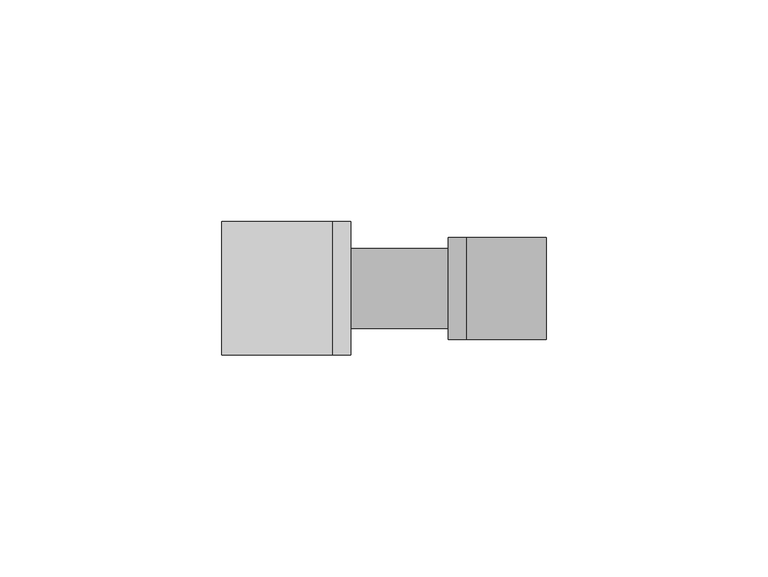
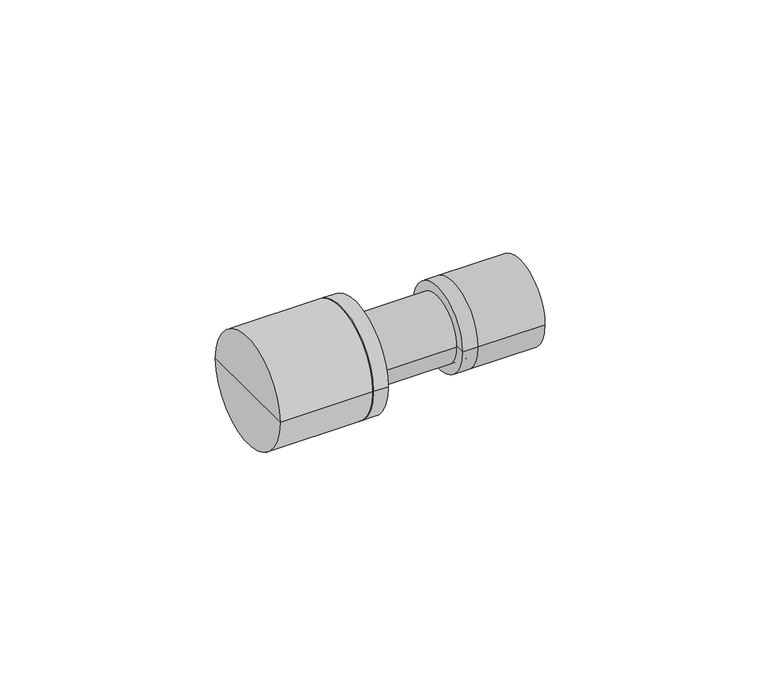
"""IFC4 building model written with IfcOpenShell, lengths in millimetres: pipe fitting geometry, KAN-therm Push łącznik PPSU : KAN-therm Push łącznik PPSU."""

from ifc_helpers import new_model, si_unit, frame, origin, place, context, project, spatial, circle_curve, source, transform, mapped, element, save
from ifc_brep_helpers import plane_surface, cylinder_surface, advanced_brep


def pipe_fitting_8ca0cf12(model_context):
    return source(origin(), model_context, "Body", "AdvancedBrep", [
        advanced_brep(
        [(-15.0, -15.0, 0.0), (-15.0, 0.0, 0.0), (-15.0, 15.0, 0.0), (-11.0, -15.0, 0.0), (-11.0, 15.0, 0.0), (-11.0, 0.0, 0.0)],
        [
            (0, 1),
            (1, 2),
            (2, 0, circle_curve(frame((-15.0, 0.0, 0.0), z_axis=(-1.0, 0.0, 0.0), x_axis=(0.0, 1.0, 0.0)), 15.0)),
            (0, 2, circle_curve(frame((-15.0, 0.0, 0.0), z_axis=(-1.0, 0.0, 0.0), x_axis=(0.0, 1.0, 0.0)), 15.0)),
            (3, 0),
            (2, 4),
            (4, 3, circle_curve(frame((-11.0, 0.0, 0.0), z_axis=(-1.0, 0.0, 0.0), x_axis=(0.0, 1.0, 0.0)), 15.0)),
            (3, 4, circle_curve(frame((-11.0, 0.0, 0.0), z_axis=(-1.0, 0.0, 0.0), x_axis=(0.0, 1.0, 0.0)), 15.0)),
            (5, 3),
            (4, 5),
        ],
        [
            plane_surface(frame((-15.0, 0.0, 0.0), z_axis=(-1.0, 0.0, 0.0), x_axis=(0.0, 1.0, 0.0))),
            cylinder_surface(frame((-2017.0, 0.0, 0.0), z_axis=(1.0, 0.0, 0.0), x_axis=(0.0, 1.0, 0.0)), 15.0),
            plane_surface(frame((-11.0, 0.0, 0.0), z_axis=(1.0, 0.0, 0.0), x_axis=(0.0, 1.0, 0.0))),
        ],
        [
            (0, [[1, 2, 3]]),
            (0, [[-2, -1, 4]]),
            (1, [[5, -3, 6, 7]]),
            (1, [[-6, -4, -5, 8]]),
            (2, [[9, -7, 10]]),
            (2, [[-10, -8, -9]]),
        ],
    ),
        advanced_brep(
        [(-40.0, -15.0, 0.0), (-40.0, 0.0, 0.0), (-40.0, 15.0, 0.0), (-15.0, -15.0, 0.0), (-15.0, 15.0, 0.0), (-15.0, 0.0, 0.0)],
        [
            (0, 1),
            (1, 2),
            (2, 0, circle_curve(frame((-40.0, 0.0, 0.0), z_axis=(-1.0, 0.0, 0.0), x_axis=(0.0, 1.0, 0.0)), 15.0)),
            (0, 2, circle_curve(frame((-40.0, 0.0, 0.0), z_axis=(-1.0, 0.0, 0.0), x_axis=(0.0, 1.0, 0.0)), 15.0)),
            (3, 0),
            (2, 4),
            (4, 3, circle_curve(frame((-15.0, 0.0, 0.0), z_axis=(-1.0, 0.0, 0.0), x_axis=(0.0, 1.0, 0.0)), 15.0)),
            (3, 4, circle_curve(frame((-15.0, 0.0, 0.0), z_axis=(-1.0, 0.0, 0.0), x_axis=(0.0, 1.0, 0.0)), 15.0)),
            (5, 3),
            (4, 5),
        ],
        [
            plane_surface(frame((-40.0, 0.0, 0.0), z_axis=(-1.0, 0.0, 0.0), x_axis=(0.0, 1.0, 0.0))),
            cylinder_surface(frame((-2017.0, 0.0, 0.0), z_axis=(1.0, 0.0, 0.0), x_axis=(0.0, 1.0, 0.0)), 15.0),
            plane_surface(frame((-15.0, 0.0, 0.0), z_axis=(1.0, 0.0, 0.0), x_axis=(0.0, 1.0, 0.0))),
        ],
        [
            (0, [[1, 2, 3]]),
            (0, [[-2, -1, 4]]),
            (1, [[5, -3, 6, 7]]),
            (1, [[-6, -4, -5, 8]]),
            (2, [[9, -7, 10]]),
            (2, [[-10, -8, -9]]),
        ],
    ),
        advanced_brep(
        [(15.0, -11.5, 0.0), (15.0, 11.5, 0.0), (15.0, 0.0, 0.0), (11.0, -11.5, 0.0), (11.0, 11.5, 0.0), (11.0, 0.0, 0.0)],
        [
            (0, 1, circle_curve(frame((15.0, 0.0, 0.0), z_axis=(1.0, 0.0, 0.0), x_axis=(0.0, 1.0, 0.0)), 11.5)),
            (1, 2),
            (2, 0),
            (1, 0, circle_curve(frame((15.0, 0.0, 0.0), z_axis=(1.0, 0.0, 0.0), x_axis=(0.0, 1.0, 0.0)), 11.5)),
            (3, 4, circle_curve(frame((11.0, 0.0, 0.0), z_axis=(1.0, 0.0, 0.0), x_axis=(0.0, 1.0, 0.0)), 11.5)),
            (4, 1),
            (0, 3),
            (4, 3, circle_curve(frame((11.0, 0.0, 0.0), z_axis=(1.0, 0.0, 0.0), x_axis=(0.0, 1.0, 0.0)), 11.5)),
            (5, 4),
            (3, 5),
        ],
        [
            plane_surface(frame((15.0, 0.0, 0.0), z_axis=(1.0, 0.0, 0.0), x_axis=(0.0, 1.0, 0.0))),
            cylinder_surface(frame((2010.0, 0.0, 0.0), z_axis=(-1.0, 0.0, 0.0), x_axis=(0.0, 1.0, 0.0)), 11.5),
            plane_surface(frame((11.0, 0.0, 0.0), z_axis=(-1.0, 0.0, 0.0), x_axis=(0.0, 1.0, 0.0))),
        ],
        [
            (0, [[1, 2, 3]]),
            (0, [[4, -3, -2]]),
            (1, [[5, 6, -1, 7]]),
            (1, [[8, -7, -4, -6]]),
            (2, [[9, -5, 10]]),
            (2, [[-10, -8, -9]]),
        ],
    ),
        advanced_brep(
        [(33.0, -11.5, 0.0), (33.0, 11.5, 0.0), (33.0, 0.0, 0.0), (15.0, -11.5, 0.0), (15.0, 11.5, 0.0), (15.0, 0.0, 0.0)],
        [
            (0, 1, circle_curve(frame((33.0, 0.0, 0.0), z_axis=(1.0, 0.0, 0.0), x_axis=(0.0, 1.0, 0.0)), 11.5)),
            (1, 2),
            (2, 0),
            (1, 0, circle_curve(frame((33.0, 0.0, 0.0), z_axis=(1.0, 0.0, 0.0), x_axis=(0.0, 1.0, 0.0)), 11.5)),
            (3, 4, circle_curve(frame((15.0, 0.0, 0.0), z_axis=(1.0, 0.0, 0.0), x_axis=(0.0, 1.0, 0.0)), 11.5)),
            (4, 1),
            (0, 3),
            (4, 3, circle_curve(frame((15.0, 0.0, 0.0), z_axis=(1.0, 0.0, 0.0), x_axis=(0.0, 1.0, 0.0)), 11.5)),
            (5, 4),
            (3, 5),
        ],
        [
            plane_surface(frame((33.0, 0.0, 0.0), z_axis=(1.0, 0.0, 0.0), x_axis=(0.0, 1.0, 0.0))),
            cylinder_surface(frame((2010.0, 0.0, 0.0), z_axis=(-1.0, 0.0, 0.0), x_axis=(0.0, 1.0, 0.0)), 11.5),
            plane_surface(frame((15.0, 0.0, 0.0), z_axis=(-1.0, 0.0, 0.0), x_axis=(0.0, 1.0, 0.0))),
        ],
        [
            (0, [[1, 2, 3]]),
            (0, [[4, -3, -2]]),
            (1, [[5, 6, -1, 7]]),
            (1, [[8, -7, -4, -6]]),
            (2, [[9, -5, 10]]),
            (2, [[-10, -8, -9]]),
        ],
    ),
        advanced_brep(
        [(15.0, -9.0, 0.0), (15.0, 9.0, 0.0), (15.0, 0.0, 0.0), (-15.0, -9.0, 0.0), (-15.0, 9.0, 0.0), (-15.0, 0.0, 0.0)],
        [
            (0, 1, circle_curve(frame((15.0, 0.0, 0.0), z_axis=(1.0, 0.0, 0.0), x_axis=(0.0, 1.0, 0.0)), 9.0)),
            (1, 2),
            (2, 0),
            (1, 0, circle_curve(frame((15.0, 0.0, 0.0), z_axis=(1.0, 0.0, 0.0), x_axis=(0.0, 1.0, 0.0)), 9.0)),
            (3, 4, circle_curve(frame((-15.0, 0.0, 0.0), z_axis=(1.0, 0.0, 0.0), x_axis=(0.0, 1.0, 0.0)), 9.0)),
            (4, 1),
            (0, 3),
            (4, 3, circle_curve(frame((-15.0, 0.0, 0.0), z_axis=(1.0, 0.0, 0.0), x_axis=(0.0, 1.0, 0.0)), 9.0)),
            (5, 4),
            (3, 5),
        ],
        [
            plane_surface(frame((15.0, 0.0, 0.0), z_axis=(1.0, 0.0, 0.0), x_axis=(0.0, 1.0, 0.0))),
            cylinder_surface(frame((2009.0, 0.0, 0.0), z_axis=(-1.0, 0.0, 0.0), x_axis=(0.0, 1.0, 0.0)), 9.0),
            plane_surface(frame((-15.0, 0.0, 0.0), z_axis=(-1.0, 0.0, 0.0), x_axis=(0.0, 1.0, 0.0))),
        ],
        [
            (0, [[1, 2, 3]]),
            (0, [[4, -3, -2]]),
            (1, [[5, 6, -1, 7]]),
            (1, [[8, -7, -4, -6]]),
            (2, [[9, -5, 10]]),
            (2, [[-10, -8, -9]]),
        ],
    ),
    ])


if __name__ == "__main__":
    model = new_model("IFC4")
    model_context = context("Model", 3, world=origin())
    ifc_project = project(units=[si_unit("LENGTHUNIT", "METRE", prefix="MILLI")], contexts=[model_context])
    site = spatial("IfcSite", under=ifc_project)
    building = spatial("IfcBuilding", under=site)
    placement = place(None, origin())
    pipe_fitting_shape = pipe_fitting_8ca0cf12(model_context)
    element("IfcPipeFitting", 1, ObjectType="KAN-therm Push łącznik PPSU : KAN-therm Push łącznik PPSU", at=placement, inside=building, context=model_context, shape_type="MappedRepresentation", body=[
        mapped(pipe_fitting_shape, transform((0.0, 0.0, 0.0), x_axis=(1.0, 0.0, 0.0), y_axis=(0.0, 1.0, 0.0), z_axis=(0.0, 0.0, 1.0))),
    ])
    save(model, "model.ifc")
